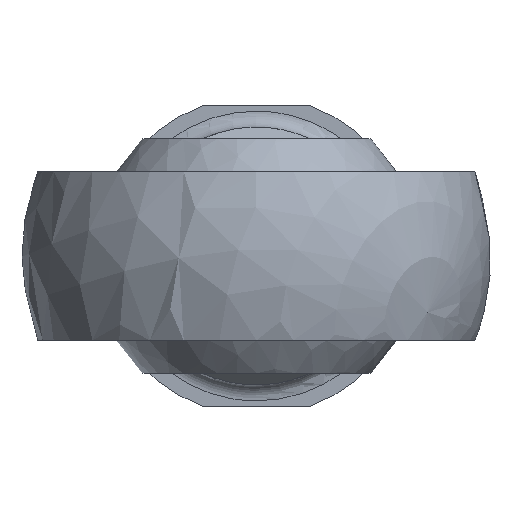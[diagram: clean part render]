
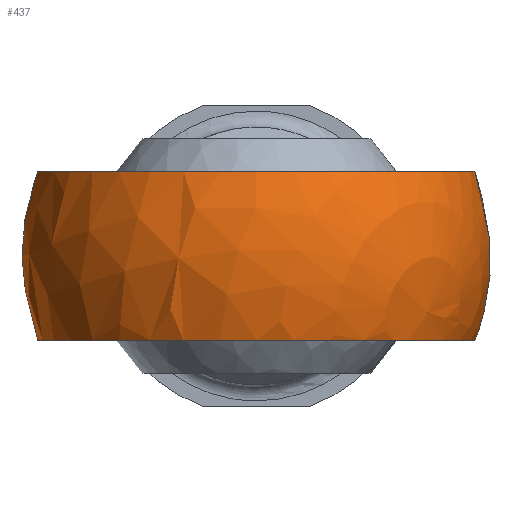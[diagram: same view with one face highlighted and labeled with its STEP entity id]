
A CAD part, left-side view. The second image highlights one B-rep face of the part: STEP entity #437.
In plain terms, the highlighted spherical face has radius 25 mm.
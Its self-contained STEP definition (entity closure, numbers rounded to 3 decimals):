
#61=FACE_OUTER_BOUND('',#143,.T.);
#143=EDGE_LOOP('',(#332,#333,#334,#335));
#201=CIRCLE('',#500,22.726);
#202=CIRCLE('',#501,23.324);
#203=CIRCLE('',#502,22.726);
#204=CIRCLE('',#503,23.324);
#234=VERTEX_POINT('',#731);
#235=VERTEX_POINT('',#732);
#236=VERTEX_POINT('',#734);
#237=VERTEX_POINT('',#736);
#276=EDGE_CURVE('',#234,#235,#201,.T.);
#277=EDGE_CURVE('',#235,#236,#202,.T.);
#278=EDGE_CURVE('',#236,#237,#203,.T.);
#279=EDGE_CURVE('',#237,#234,#204,.T.);
#332=ORIENTED_EDGE('',*,*,#276,.T.);
#333=ORIENTED_EDGE('',*,*,#277,.T.);
#334=ORIENTED_EDGE('',*,*,#278,.T.);
#335=ORIENTED_EDGE('',*,*,#279,.T.);
#430=SPHERICAL_SURFACE('',#499,25.);
#437=ADVANCED_FACE('',(#61),#430,.T.);
#499=AXIS2_PLACEMENT_3D('',#730,#581,#582);
#500=AXIS2_PLACEMENT_3D('',#733,#583,#584);
#501=AXIS2_PLACEMENT_3D('',#735,#585,#586);
#502=AXIS2_PLACEMENT_3D('',#737,#587,#588);
#503=AXIS2_PLACEMENT_3D('',#738,#589,#590);
#581=DIRECTION('center_axis',(-0.639,-0.73,-0.241));
#582=DIRECTION('ref_axis',(0.769,-0.607,-0.2));
#583=DIRECTION('center_axis',(-1.,0.,0.));
#584=DIRECTION('ref_axis',(0.,0.,1.));
#585=DIRECTION('center_axis',(0.,0.,-1.));
#586=DIRECTION('ref_axis',(0.,-1.,0.));
#587=DIRECTION('center_axis',(-1.,0.,0.));
#588=DIRECTION('ref_axis',(0.,0.,1.));
#589=DIRECTION('center_axis',(0.,0.,1.));
#590=DIRECTION('ref_axis',(0.,1.,0.));
#730=CARTESIAN_POINT('Origin',(0.,0.,
0.));
#731=CARTESIAN_POINT('',(10.417,-20.868,-9.));
#732=CARTESIAN_POINT('',(10.417,-20.868,9.));
#733=CARTESIAN_POINT('Origin',(10.417,0.,0.));
#734=CARTESIAN_POINT('',(10.417,20.868,9.));
#735=CARTESIAN_POINT('Origin',(0.,0.,
9.));
#736=CARTESIAN_POINT('',(10.417,20.868,-9.));
#737=CARTESIAN_POINT('Origin',(10.417,0.,0.));
#738=CARTESIAN_POINT('Origin',(0.,0.,
-9.));
